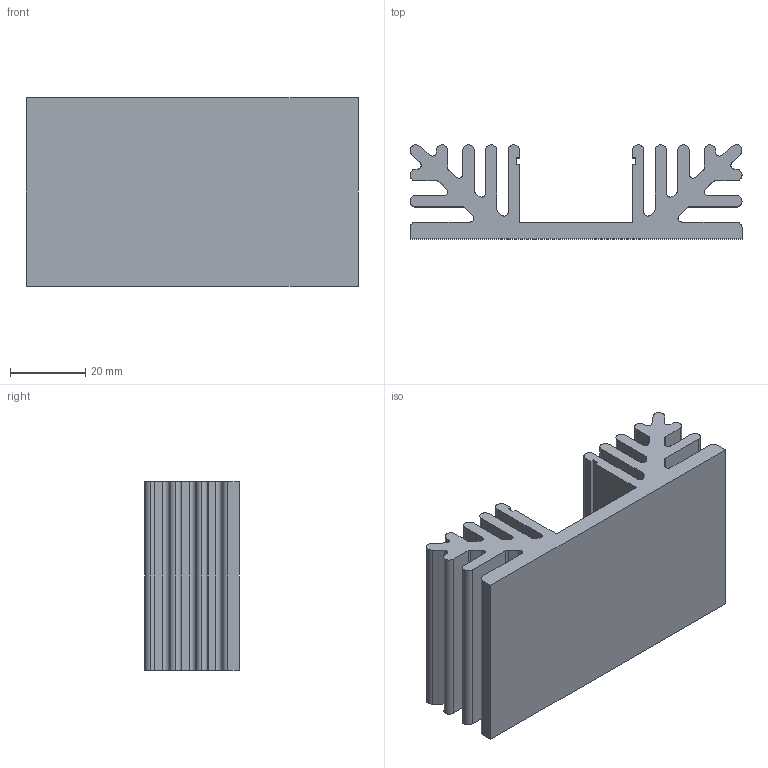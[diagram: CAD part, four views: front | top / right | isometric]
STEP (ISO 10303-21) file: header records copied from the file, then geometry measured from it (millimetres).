
FILE_DESCRIPTION (( 'STEP AP203' ), '1' );
FILE_NAME ('PR 128-50.step', '2002-10-20T23:21:09', ( 'Wolfgang Müller' ), ( 'DPS' ), 'SwSTEP 2.0', 'SolidWorks 2002264', '' );
FILE_SCHEMA (( 'CONFIG_CONTROL_DESIGN' ));
Length unit declared in the file: millimetre
Products named in the file (1): PR 128-50
Bounding box: 88 x 25 x 50 mm (x, y, z)
Volume: 53774.4 mm3; surface area: 28366.9 mm2
Topology: 1 solids, 1 shells, 100 faces, 294 edges, 196 vertices
Faces by surface type: plane 54, cylinder 46
Entity records: 3427 total; most frequent: CARTESIAN_POINT 591, ORIENTED_EDGE 588, DIRECTION 588, EDGE_CURVE 294, LINE 202, VECTOR 202, VERTEX_POINT 196, AXIS2_PLACEMENT_3D 193
